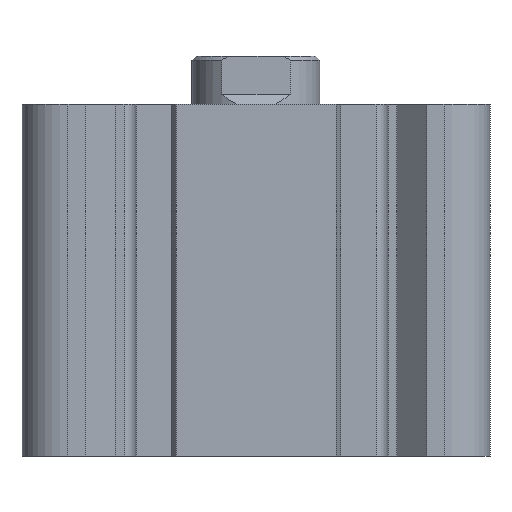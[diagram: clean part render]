
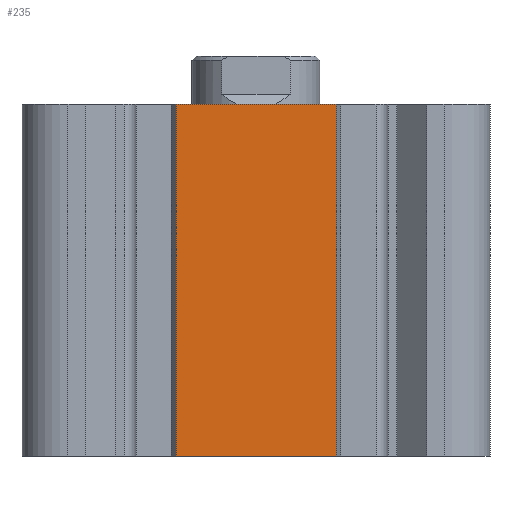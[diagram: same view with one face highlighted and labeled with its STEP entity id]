
A CAD part, left-side view. The second image highlights one B-rep face of the part: STEP entity #235.
In plain terms, the highlighted planar face has unit normal (-1, 0, 0).
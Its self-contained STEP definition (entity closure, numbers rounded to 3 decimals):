
#235 = ADVANCED_FACE( '', ( #586 ), #587, .T. );
#586 = FACE_OUTER_BOUND( '', #1136, .T. );
#587 = PLANE( '', #1137 );
#1136 = EDGE_LOOP( '', ( #1711, #1712, #1713, #1714 ) );
#1137 = AXIS2_PLACEMENT_3D( '', #1715, #1716, #1717 );
#1711 = ORIENTED_EDGE( '', *, *, #2925, .F. );
#1712 = ORIENTED_EDGE( '', *, *, #2926, .F. );
#1713 = ORIENTED_EDGE( '', *, *, #2927, .T. );
#1714 = ORIENTED_EDGE( '', *, *, #2928, .T. );
#1715 = CARTESIAN_POINT( '', ( -55.5, 19.998, -88. ) );
#1716 = DIRECTION( '', ( -1., 0., 0. ) );
#1717 = DIRECTION( '', ( 0., 0., 1. ) );
#2925 = EDGE_CURVE( '', #3419, #3420, #3421, .T. );
#2926 = EDGE_CURVE( '', #3422, #3419, #3423, .T. );
#2927 = EDGE_CURVE( '', #3422, #3424, #3425, .T. );
#2928 = EDGE_CURVE( '', #3424, #3420, #3426, .T. );
#3419 = VERTEX_POINT( '', #4145 );
#3420 = VERTEX_POINT( '', #4146 );
#3421 = LINE( '', #4147, #4148 );
#3422 = VERTEX_POINT( '', #4149 );
#3423 = LINE( '', #4150, #4151 );
#3424 = VERTEX_POINT( '', #4152 );
#3425 = LINE( '', #4153, #4154 );
#3426 = LINE( '', #4155, #4156 );
#4145 = CARTESIAN_POINT( '', ( -55.5, 19.998, 0. ) );
#4146 = CARTESIAN_POINT( '', ( -55.5, -20.002, 0. ) );
#4147 = CARTESIAN_POINT( '', ( -55.5, 19.998, 0. ) );
#4148 = VECTOR( '', #4998, 1000. );
#4149 = CARTESIAN_POINT( '', ( -55.5, 19.998, -88. ) );
#4150 = CARTESIAN_POINT( '', ( -55.5, 19.998, -88. ) );
#4151 = VECTOR( '', #4999, 1000. );
#4152 = CARTESIAN_POINT( '', ( -55.5, -20.002, -88. ) );
#4153 = CARTESIAN_POINT( '', ( -55.5, 19.998, -88. ) );
#4154 = VECTOR( '', #5000, 1000. );
#4155 = CARTESIAN_POINT( '', ( -55.5, -20.002, -88. ) );
#4156 = VECTOR( '', #5001, 1000. );
#4998 = DIRECTION( '', ( 0., -1., 0. ) );
#4999 = DIRECTION( '', ( 0., 0., 1. ) );
#5000 = DIRECTION( '', ( 0., -1., 0. ) );
#5001 = DIRECTION( '', ( 0., 0., 1. ) );
